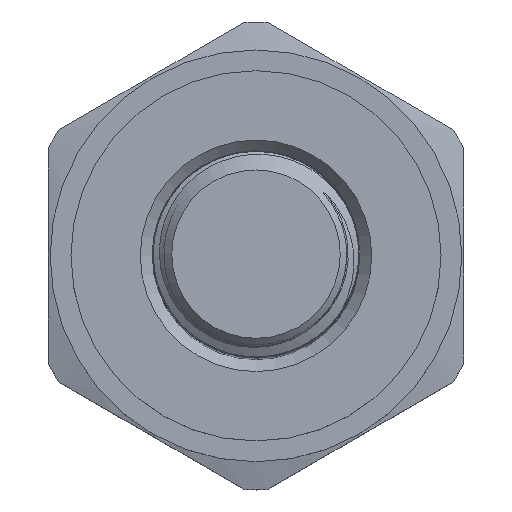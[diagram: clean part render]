
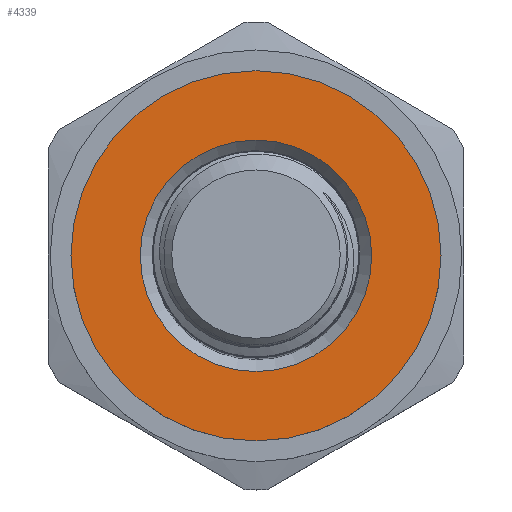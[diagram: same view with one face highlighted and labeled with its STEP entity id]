
A CAD part, top view. The second image highlights one B-rep face of the part: STEP entity #4339.
In plain terms, the highlighted planar face has unit normal (0, 0, 1).
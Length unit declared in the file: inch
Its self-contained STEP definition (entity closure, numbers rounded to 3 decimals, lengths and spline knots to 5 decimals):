
#104=FACE_BOUND('',#584,.T.);
#189=PLANE('',#4712);
#317=FACE_OUTER_BOUND('',#583,.T.);
#583=EDGE_LOOP('',(#3420));
#584=EDGE_LOOP('',(#3421));
#838=CIRCLE('',#4713,0.445);
#839=CIRCLE('',#4714,0.27825);
#1924=VERTEX_POINT('',#12193);
#1925=VERTEX_POINT('',#12195);
#2484=EDGE_CURVE('',#1924,#1924,#838,.T.);
#2485=EDGE_CURVE('',#1925,#1925,#839,.T.);
#3420=ORIENTED_EDGE('',*,*,#2484,.T.);
#3421=ORIENTED_EDGE('',*,*,#2485,.F.);
#4339=ADVANCED_FACE('',(#317,#104),#189,.T.);
#4712=AXIS2_PLACEMENT_3D('',#12192,#5391,#5392);
#4713=AXIS2_PLACEMENT_3D('',#12194,#5393,#5394);
#4714=AXIS2_PLACEMENT_3D('',#12196,#5395,#5396);
#5391=DIRECTION('center_axis',(0.,0.,1.));
#5392=DIRECTION('ref_axis',(1.,0.,0.));
#5393=DIRECTION('center_axis',(0.,0.,1.));
#5394=DIRECTION('ref_axis',(-1.,0.,0.));
#5395=DIRECTION('center_axis',(0.,0.,1.));
#5396=DIRECTION('ref_axis',(-1.,0.,0.));
#12192=CARTESIAN_POINT('Origin',(0.,0.,
0.91));
#12193=CARTESIAN_POINT('',(0.445,0.,0.91));
#12194=CARTESIAN_POINT('Origin',(0.,0.,0.91));
#12195=CARTESIAN_POINT('',(0.27825,0.,0.91));
#12196=CARTESIAN_POINT('Origin',(0.,0.,0.91));
